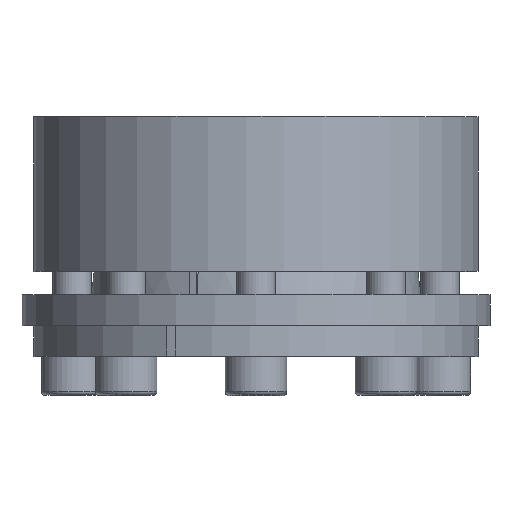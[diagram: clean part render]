
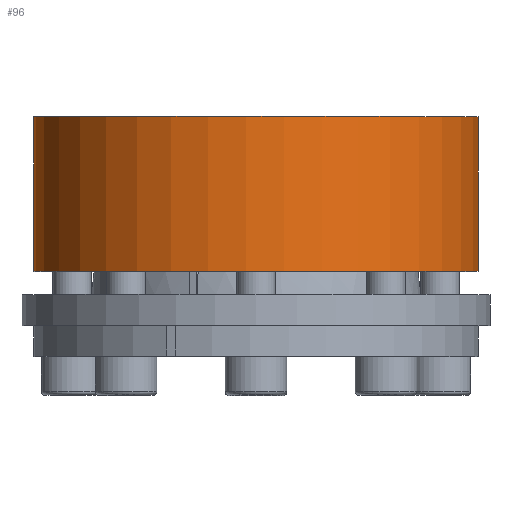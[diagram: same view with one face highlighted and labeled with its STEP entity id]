
A CAD part, top view. The second image highlights one B-rep face of the part: STEP entity #96.
In plain terms, the highlighted cylindrical face has radius 57.5 mm (diameter 115 mm), a partial arc.
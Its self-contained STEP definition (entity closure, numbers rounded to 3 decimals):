
#96 = ADVANCED_FACE( '', ( #220 ), #221, .T. );
#220 = FACE_OUTER_BOUND( '', #416, .T. );
#221 = CYLINDRICAL_SURFACE( '', #417, 57.5 );
#416 = EDGE_LOOP( '', ( #671, #672, #673, #674 ) );
#417 = AXIS2_PLACEMENT_3D( '', #675, #676, #677 );
#671 = ORIENTED_EDGE( '', *, *, #1071, .F. );
#672 = ORIENTED_EDGE( '', *, *, #1072, .T. );
#673 = ORIENTED_EDGE( '', *, *, #1073, .T. );
#674 = ORIENTED_EDGE( '', *, *, #1074, .F. );
#675 = CARTESIAN_POINT( '', ( 0., -60., 0. ) );
#676 = DIRECTION( '', ( 0., 1., 0. ) );
#677 = DIRECTION( '', ( 0., 0., -1. ) );
#1071 = EDGE_CURVE( '', #1298, #1299, #1300, .T. );
#1072 = EDGE_CURVE( '', #1298, #1301, #1302, .F. );
#1073 = EDGE_CURVE( '', #1301, #1303, #1304, .T. );
#1074 = EDGE_CURVE( '', #1299, #1303, #1305, .F. );
#1298 = VERTEX_POINT( '', #1662 );
#1299 = VERTEX_POINT( '', #1663 );
#1300 = CIRCLE( '', #1664, 57.5 );
#1301 = VERTEX_POINT( '', #1665 );
#1302 = LINE( '', #1666, #1667 );
#1303 = VERTEX_POINT( '', #1668 );
#1304 = CIRCLE( '', #1669, 57.5 );
#1305 = LINE( '', #1670, #1671 );
#1662 = CARTESIAN_POINT( '', ( 23.062, 22., -52.672 ) );
#1663 = CARTESIAN_POINT( '', ( 20.937, 22., -53.553 ) );
#1664 = AXIS2_PLACEMENT_3D( '', #1979, #1980, #1981 );
#1665 = CARTESIAN_POINT( '', ( 23.062, 62., -52.672 ) );
#1666 = CARTESIAN_POINT( '', ( 23.062, -60., -52.672 ) );
#1667 = VECTOR( '', #1982, 1000. );
#1668 = CARTESIAN_POINT( '', ( 20.937, 62., -53.553 ) );
#1669 = AXIS2_PLACEMENT_3D( '', #1983, #1984, #1985 );
#1670 = CARTESIAN_POINT( '', ( 20.937, -60., -53.553 ) );
#1671 = VECTOR( '', #1986, 1000. );
#1979 = CARTESIAN_POINT( '', ( 0., 22., 0. ) );
#1980 = DIRECTION( '', ( 0., -1., 0. ) );
#1981 = DIRECTION( '', ( 0., 0., -1. ) );
#1982 = DIRECTION( '', ( 0., -1., 0. ) );
#1983 = CARTESIAN_POINT( '', ( 0., 62., 0. ) );
#1984 = DIRECTION( '', ( 0., -1., 0. ) );
#1985 = DIRECTION( '', ( 0., 0., -1. ) );
#1986 = DIRECTION( '', ( 0., -1., 0. ) );
